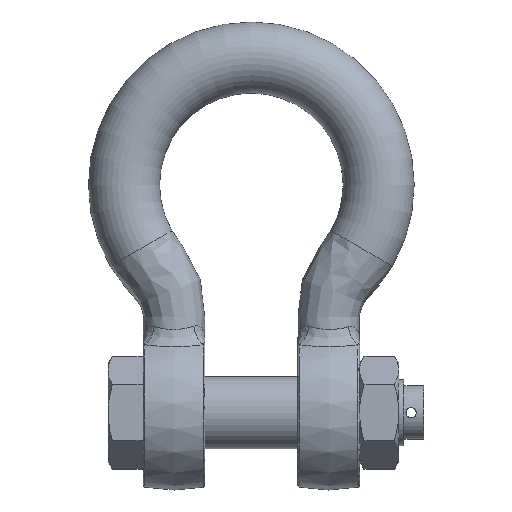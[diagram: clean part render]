
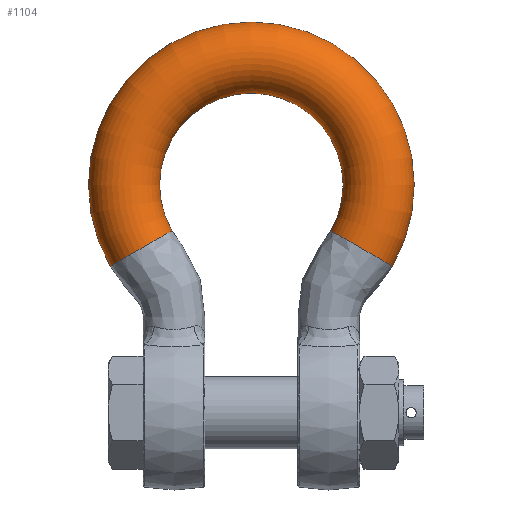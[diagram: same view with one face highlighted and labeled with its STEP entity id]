
A CAD part, top view. The second image highlights one B-rep face of the part: STEP entity #1104.
In plain terms, the highlighted toroidal (fillet/blend) face has major radius 123.5 mm and minor radius 34.5 mm.
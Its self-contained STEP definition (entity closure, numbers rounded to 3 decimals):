
#127=TOROIDAL_SURFACE('',#1255,123.5,34.5);
#199=FACE_OUTER_BOUND('',#272,.T.);
#272=EDGE_LOOP('',(#875,#876,#877,#878,#879,#880));
#414=CIRCLE('',#1256,34.5);
#415=CIRCLE('',#1257,34.5);
#416=CIRCLE('',#1258,89.);
#417=CIRCLE('',#1259,34.5);
#418=CIRCLE('',#1260,34.5);
#499=VERTEX_POINT('',#3713);
#500=VERTEX_POINT('',#3714);
#501=VERTEX_POINT('',#3717);
#502=VERTEX_POINT('',#3719);
#632=EDGE_CURVE('',#499,#500,#414,.T.);
#633=EDGE_CURVE('',#500,#499,#415,.T.);
#634=EDGE_CURVE('',#500,#501,#416,.T.);
#635=EDGE_CURVE('',#501,#502,#417,.T.);
#636=EDGE_CURVE('',#502,#501,#418,.T.);
#875=ORIENTED_EDGE('',*,*,#632,.F.);
#876=ORIENTED_EDGE('',*,*,#633,.F.);
#877=ORIENTED_EDGE('',*,*,#634,.T.);
#878=ORIENTED_EDGE('',*,*,#635,.T.);
#879=ORIENTED_EDGE('',*,*,#636,.T.);
#880=ORIENTED_EDGE('',*,*,#634,.F.);
#1104=ADVANCED_FACE('',(#199),#127,.T.);
#1255=AXIS2_PLACEMENT_3D('',#3712,#1442,#1443);
#1256=AXIS2_PLACEMENT_3D('',#3715,#1444,#1445);
#1257=AXIS2_PLACEMENT_3D('',#3716,#1446,#1447);
#1258=AXIS2_PLACEMENT_3D('',#3718,#1448,#1449);
#1259=AXIS2_PLACEMENT_3D('',#3720,#1450,#1451);
#1260=AXIS2_PLACEMENT_3D('',#3721,#1452,#1453);
#1442=DIRECTION('center_axis',(0.,0.,1.));
#1443=DIRECTION('ref_axis',(0.,1.,0.));
#1444=DIRECTION('center_axis',(0.5,-0.866,0.));
#1445=DIRECTION('ref_axis',(-0.866,-0.5,0.));
#1446=DIRECTION('center_axis',(0.5,-0.866,0.));
#1447=DIRECTION('ref_axis',(-0.866,-0.5,0.));
#1448=DIRECTION('center_axis',(0.,0.,-1.));
#1449=DIRECTION('ref_axis',(0.,1.,0.));
#1450=DIRECTION('center_axis',(0.5,0.866,0.));
#1451=DIRECTION('ref_axis',(0.866,-0.5,0.));
#1452=DIRECTION('center_axis',(0.5,0.866,0.));
#1453=DIRECTION('ref_axis',(0.866,-0.5,0.));
#3712=CARTESIAN_POINT('Origin',(0.,221.,0.));
#3713=CARTESIAN_POINT('',(-136.832,142.,0.));
#3714=CARTESIAN_POINT('',(-77.076,176.5,0.));
#3715=CARTESIAN_POINT('Origin',(-106.954,159.25,0.));
#3716=CARTESIAN_POINT('Origin',(-106.954,159.25,0.));
#3717=CARTESIAN_POINT('',(77.076,176.5,0.));
#3718=CARTESIAN_POINT('Origin',(0.,221.,0.));
#3719=CARTESIAN_POINT('',(136.832,142.,0.));
#3720=CARTESIAN_POINT('Origin',(106.954,159.25,0.));
#3721=CARTESIAN_POINT('Origin',(106.954,159.25,0.));
